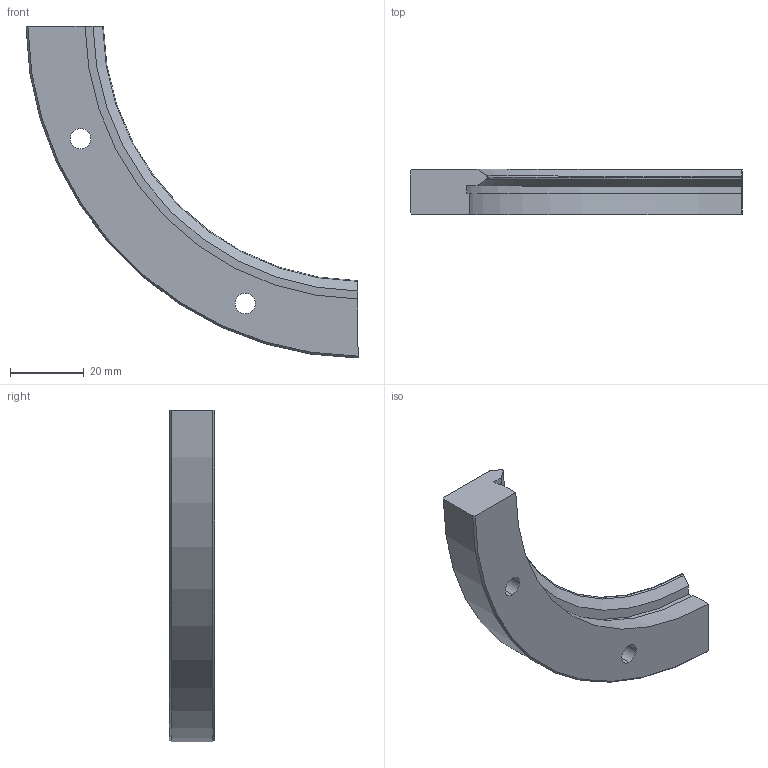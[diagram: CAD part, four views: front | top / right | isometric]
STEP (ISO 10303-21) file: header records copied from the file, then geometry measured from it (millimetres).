
FILE_DESCRIPTION(('STEP AP203'),'1');
FILE_NAME('ris_182_r90.stp','2021-08-04T13:05:49',('TraceParts'),('TraceParts S.A.'),'Spatial InterOp 3D',' ',' ');
FILE_SCHEMA(('CONFIG_CONTROL_DESIGN'));
Length unit declared in the file: millimetre
Products named in the file (1): 1
Bounding box: 89.99 x 12.25 x 89.99 mm (x, y, z)
Volume: 25737.9 mm3; surface area: 8983.1 mm2
Topology: 1 solids, 1 shells, 25 faces, 63 edges, 42 vertices
Faces by surface type: cylinder 11, plane 8, cone 4, torus 2
Entity records: 838 total; most frequent: CARTESIAN_POINT 175, DIRECTION 132, ORIENTED_EDGE 126, EDGE_CURVE 63, AXIS2_PLACEMENT_3D 55, VERTEX_POINT 42, EDGE_LOOP 31, CIRCLE 29
